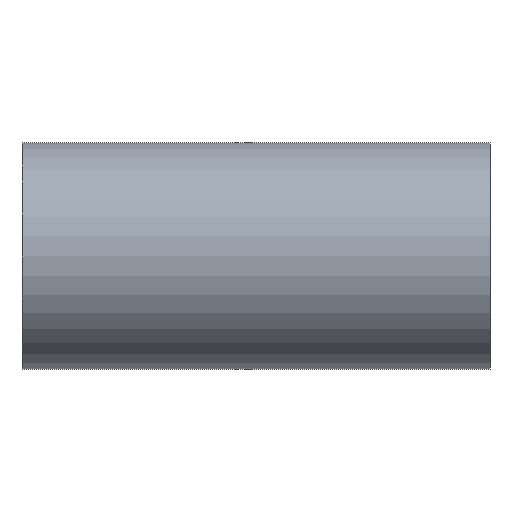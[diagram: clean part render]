
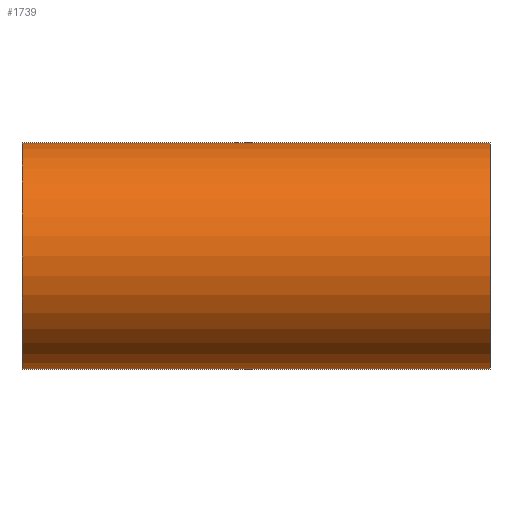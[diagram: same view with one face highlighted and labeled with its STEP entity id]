
A CAD part, front view. The second image highlights one B-rep face of the part: STEP entity #1739.
In plain terms, the highlighted cylindrical face has radius 50.8 mm (diameter 101.6 mm), a partial arc.
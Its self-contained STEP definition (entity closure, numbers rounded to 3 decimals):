
#96 = LINE ( 'NONE', #534, #1207 ) ;
#117 = EDGE_CURVE ( 'NONE', #1437, #274, #1713, .T. ) ;
#145 = DIRECTION ( 'NONE',  ( -1., 0., 0. ) ) ;
#274 = VERTEX_POINT ( 'NONE', #791 ) ;
#282 = EDGE_CURVE ( 'NONE', #586, #1437, #289, .T. ) ;
#289 = LINE ( 'NONE', #1524, #650 ) ;
#452 = VERTEX_POINT ( 'NONE', #1286 ) ;
#534 = CARTESIAN_POINT ( 'NONE',  ( -104.8, 0., 50.8 ) ) ;
#586 = VERTEX_POINT ( 'NONE', #1134 ) ;
#640 = DIRECTION ( 'NONE',  ( 0., 0., -1. ) ) ;
#648 = DIRECTION ( 'NONE',  ( 0., 0., -1. ) ) ;
#650 = VECTOR ( 'NONE', #1784, 1000. ) ;
#654 = ORIENTED_EDGE ( 'NONE', *, *, #1175, .T. ) ;
#791 = CARTESIAN_POINT ( 'NONE',  ( 104.8, 0., 50.8 ) ) ;
#874 = ORIENTED_EDGE ( 'NONE', *, *, #117, .T. ) ;
#970 = AXIS2_PLACEMENT_3D ( 'NONE', #1860, #1070, #648 ) ;
#1025 = DIRECTION ( 'NONE',  ( 0., 0., -1. ) ) ;
#1070 = DIRECTION ( 'NONE',  ( 1., 0., 0. ) ) ;
#1134 = CARTESIAN_POINT ( 'NONE',  ( -104.8, 0., -50.8 ) ) ;
#1161 = AXIS2_PLACEMENT_3D ( 'NONE', #1168, #145, #1025 ) ;
#1168 = CARTESIAN_POINT ( 'NONE',  ( 104.8, 0., 0. ) ) ;
#1175 = EDGE_CURVE ( 'NONE', #452, #586, #1707, .T. ) ;
#1207 = VECTOR ( 'NONE', #1489, 1000. ) ;
#1249 = EDGE_LOOP ( 'NONE', ( #1493, #654, #1559, #874 ) ) ;
#1286 = CARTESIAN_POINT ( 'NONE',  ( -104.8, 0., 50.8 ) ) ;
#1342 = CARTESIAN_POINT ( 'NONE',  ( -104.8, 0., 0. ) ) ;
#1407 = DIRECTION ( 'NONE',  ( 1., 0., 0. ) ) ;
#1437 = VERTEX_POINT ( 'NONE', #1793 ) ;
#1489 = DIRECTION ( 'NONE',  ( 1., 0., 0. ) ) ;
#1493 = ORIENTED_EDGE ( 'NONE', *, *, #1727, .F. ) ;
#1524 = CARTESIAN_POINT ( 'NONE',  ( -104.8, 0., -50.8 ) ) ;
#1550 = CYLINDRICAL_SURFACE ( 'NONE', #1574, 50.8 ) ;
#1559 = ORIENTED_EDGE ( 'NONE', *, *, #282, .T. ) ;
#1574 = AXIS2_PLACEMENT_3D ( 'NONE', #1342, #1407, #640 ) ;
#1595 = FACE_OUTER_BOUND ( 'NONE', #1249, .T. ) ;
#1707 = CIRCLE ( 'NONE', #970, 50.8 ) ;
#1713 = CIRCLE ( 'NONE', #1161, 50.8 ) ;
#1727 = EDGE_CURVE ( 'NONE', #452, #274, #96, .T. ) ;
#1739 = ADVANCED_FACE ( 'NONE', ( #1595 ), #1550, .T. ) ;
#1784 = DIRECTION ( 'NONE',  ( 1., 0., 0. ) ) ;
#1793 = CARTESIAN_POINT ( 'NONE',  ( 104.8, 0., -50.8 ) ) ;
#1860 = CARTESIAN_POINT ( 'NONE',  ( -104.8, 0., 0. ) ) ;
